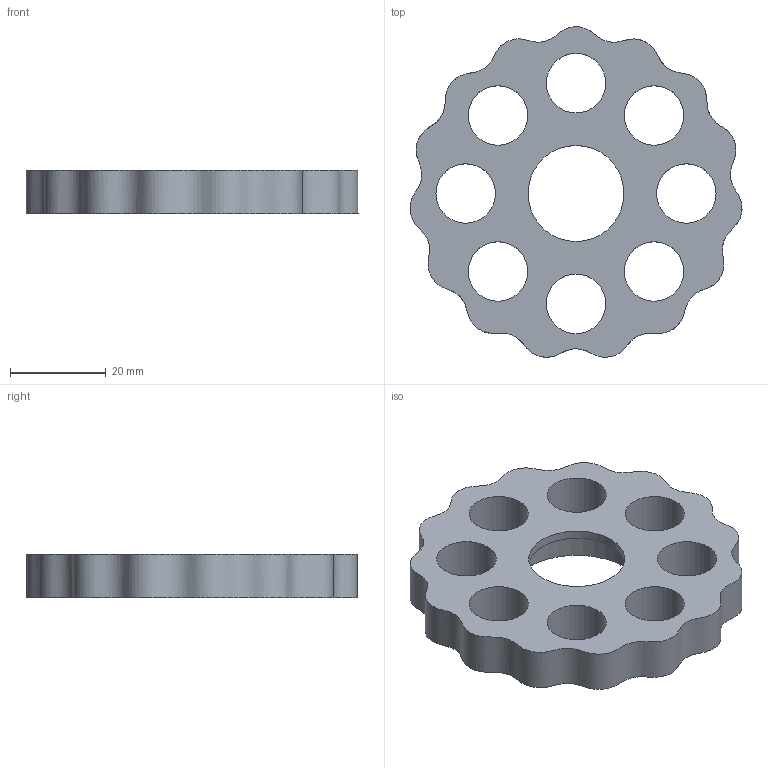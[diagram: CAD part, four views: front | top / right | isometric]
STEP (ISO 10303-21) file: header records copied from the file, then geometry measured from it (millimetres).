
FILE_DESCRIPTION (( 'STEP AP214' ), '1' );
FILE_NAME ('15_1 cyclo disc.STEP', '2020-07-10T16:47:15', ( '' ), ( '' ), 'SwSTEP 2.0', 'SolidWorks 2016', '' );
FILE_SCHEMA (( 'AUTOMOTIVE_DESIGN' ));
Length unit declared in the file: millimetre
Products named in the file (1): 15_1 cyclo disc
Bounding box: 69.22 x 68.91 x 9 mm (x, y, z)
Volume: 18223.2 mm3; surface area: 10106.1 mm2
Topology: 1 solids, 1 shells, 28 faces, 72 edges, 48 vertices
Faces by surface type: cylinder 22, plane 4, bspline 2
Entity records: 3931 total; most frequent: CARTESIAN_POINT 3144, DIRECTION 166, ORIENTED_EDGE 144, EDGE_CURVE 72, AXIS2_PLACEMENT_3D 71, EDGE_LOOP 48, VERTEX_POINT 48, CIRCLE 44
